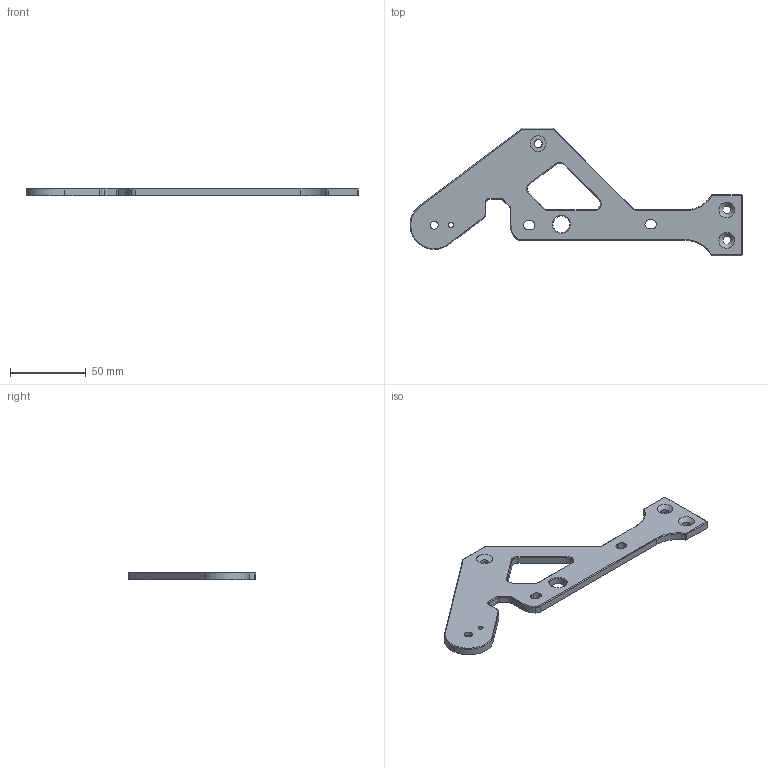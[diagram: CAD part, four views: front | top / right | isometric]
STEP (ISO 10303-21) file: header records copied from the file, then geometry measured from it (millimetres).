
FILE_DESCRIPTION(/* description */ (''),/* implementation_level */ '2;1');
FILE_NAME(/* name */ 'Camera-L-side-plate-final.step',/* time_stamp */ '2025-06-23T21:37:33-04:00',/* author */ (''),/* organization */ (''),/* preprocessor_version */ 'ST-DEVELOPER v20.1',/* originating_system */ 'Autodesk Translation Framework v14.10.0.0',/* authorisation */ '');
FILE_SCHEMA (('AUTOMOTIVE_DESIGN { 1 0 10303 214 3 1 1 }'));
Length unit declared in the file: millimetre
Products named in the file (1): Camera-L-Side-Plate
Bounding box: 218.55 x 83.66 x 5 mm (x, y, z)
Volume: 37680.4 mm3; surface area: 19224.5 mm2
Topology: 1 solids, 1 shells, 95 faces, 237 edges, 142 vertices
Faces by surface type: plane 40, cylinder 30, cone 25
Full cylindrical faces by diameter (mm): 3.3 x1, 5.2 x4, 11 x1
Entity records: 2856 total; most frequent: DIRECTION 510, CARTESIAN_POINT 473, ORIENTED_EDGE 470, EDGE_CURVE 235, AXIS2_PLACEMENT_3D 179, LINE 152, VECTOR 152, VERTEX_POINT 142
